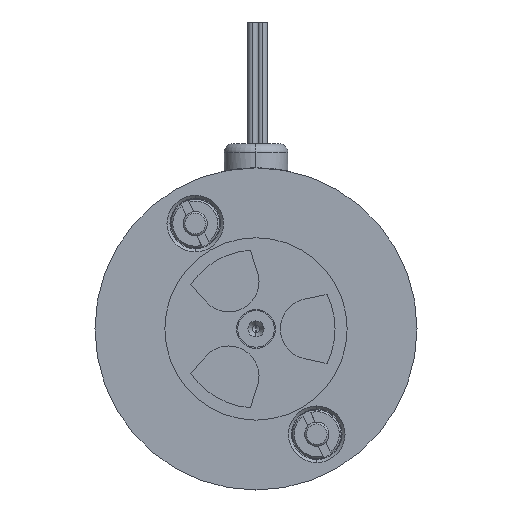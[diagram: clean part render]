
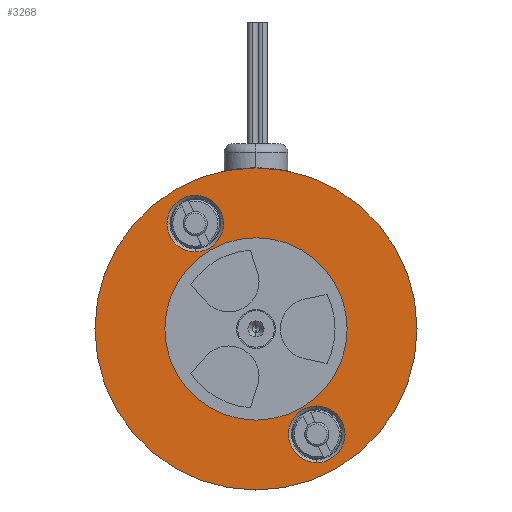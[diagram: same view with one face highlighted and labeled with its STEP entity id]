
A CAD part, left-side view. The second image highlights one B-rep face of the part: STEP entity #3268.
In plain terms, the highlighted planar face has unit normal (-1, 0, 0).
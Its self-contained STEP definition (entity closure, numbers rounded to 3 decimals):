
#226 = DIRECTION ( 'NONE',  ( 0., 0., -1. ) ) ;
#227 = DIRECTION ( 'NONE',  ( 1., 0., 0. ) ) ;
#228 = CARTESIAN_POINT ( 'NONE',  ( -112., 10., 17.321 ) ) ;
#229 = AXIS2_PLACEMENT_3D ( 'NONE', #228, #227, #226 ) ;
#230 = CIRCLE ( 'NONE', #229, 4.65 ) ;
#231 = DIRECTION ( 'NONE',  ( 0., 0., -1. ) ) ;
#232 = DIRECTION ( 'NONE',  ( 1., 0., 0. ) ) ;
#233 = CARTESIAN_POINT ( 'NONE',  ( -112., -10., -17.321 ) ) ;
#234 = AXIS2_PLACEMENT_3D ( 'NONE', #233, #232, #231 ) ;
#239 = CIRCLE ( 'NONE', #234, 4.65 ) ;
#270 = DIRECTION ( 'NONE',  ( 0., 0., 1. ) ) ;
#271 = DIRECTION ( 'NONE',  ( -1., 0., 0. ) ) ;
#272 = CARTESIAN_POINT ( 'NONE',  ( -112., 0., 0. ) ) ;
#273 = AXIS2_PLACEMENT_3D ( 'NONE', #272, #271, #270 ) ;
#274 = CIRCLE ( 'NONE', #273, 15. ) ;
#391 = FACE_OUTER_BOUND ( 'NONE', #3294, .T. ) ;
#392 = FACE_BOUND ( 'NONE', #3290, .T. ) ;
#393 = FACE_BOUND ( 'NONE', #3286, .T. ) ;
#394 = FACE_BOUND ( 'NONE', #3282, .T. ) ;
#395 = DIRECTION ( 'NONE',  ( 0., 0., 1. ) ) ;
#396 = DIRECTION ( 'NONE',  ( -1., 0., 0. ) ) ;
#397 = CARTESIAN_POINT ( 'NONE',  ( -112., 0., 0. ) ) ;
#398 = AXIS2_PLACEMENT_3D ( 'NONE', #397, #396, #395 ) ;
#399 = CIRCLE ( 'NONE', #398, 26.5 ) ;
#436 = DIRECTION ( 'NONE',  ( 0., 0., -1. ) ) ;
#437 = DIRECTION ( 'NONE',  ( 1., 0., 0. ) ) ;
#438 = CARTESIAN_POINT ( 'NONE',  ( -112., 26.5, 0. ) ) ;
#439 = AXIS2_PLACEMENT_3D ( 'NONE', #438, #437, #436 ) ;
#441 = PLANE ( 'NONE',  #439 ) ;
#1901 = CARTESIAN_POINT ( 'NONE',  ( -112., -10., -12.671 ) ) ;
#1908 = DIRECTION ( 'NONE',  ( 0., 0., -1. ) ) ;
#1909 = DIRECTION ( 'NONE',  ( 1., 0., 0. ) ) ;
#1910 = CARTESIAN_POINT ( 'NONE',  ( -112., -10., -17.321 ) ) ;
#1911 = AXIS2_PLACEMENT_3D ( 'NONE', #1910, #1909, #1908 ) ;
#1912 = CIRCLE ( 'NONE', #1911, 4.65 ) ;
#2494 = VERTEX_POINT ( 'NONE', #4129 ) ;
#2495 = VERTEX_POINT ( 'NONE', #4128 ) ;
#2497 = EDGE_CURVE ( 'NONE', #2495, #2494, #4125, .T. ) ;
#2677 = VERTEX_POINT ( 'NONE', #4661 ) ;
#2685 = EDGE_CURVE ( 'NONE', #2690, #2677, #1912, .T. ) ;
#2690 = VERTEX_POINT ( 'NONE', #1901 ) ;
#2762 = VERTEX_POINT ( 'NONE', #5363 ) ;
#2820 = EDGE_CURVE ( 'NONE', #2762, #2821, #5169, .T. ) ;
#2821 = VERTEX_POINT ( 'NONE', #5146 ) ;
#2849 = VERTEX_POINT ( 'NONE', #5409 ) ;
#2851 = EDGE_CURVE ( 'NONE', #2852, #2849, #5408, .T. ) ;
#2852 = VERTEX_POINT ( 'NONE', #5403 ) ;
#3069 = ORIENTED_EDGE ( 'NONE', *, *, #2851, .T. ) ;
#3070 = ORIENTED_EDGE ( 'NONE', *, *, #3267, .T. ) ;
#3267 = EDGE_CURVE ( 'NONE', #2849, #2852, #399, .T. ) ;
#3268 = ADVANCED_FACE ( 'NONE', ( #394, #393, #392, #391 ), #441, .F. ) ;
#3282 = EDGE_LOOP ( 'NONE', ( #3283, #3284 ) ) ;
#3283 = ORIENTED_EDGE ( 'NONE', *, *, #2685, .T. ) ;
#3284 = ORIENTED_EDGE ( 'NONE', *, *, #3285, .T. ) ;
#3285 = EDGE_CURVE ( 'NONE', #2677, #2690, #239, .T. ) ;
#3286 = EDGE_LOOP ( 'NONE', ( #3287, #3288 ) ) ;
#3287 = ORIENTED_EDGE ( 'NONE', *, *, #2497, .T. ) ;
#3288 = ORIENTED_EDGE ( 'NONE', *, *, #3289, .T. ) ;
#3289 = EDGE_CURVE ( 'NONE', #2494, #2495, #230, .T. ) ;
#3290 = EDGE_LOOP ( 'NONE', ( #3291, #3292 ) ) ;
#3291 = ORIENTED_EDGE ( 'NONE', *, *, #2820, .F. ) ;
#3292 = ORIENTED_EDGE ( 'NONE', *, *, #3293, .F. ) ;
#3293 = EDGE_CURVE ( 'NONE', #2821, #2762, #274, .T. ) ;
#3294 = EDGE_LOOP ( 'NONE', ( #3069, #3070 ) ) ;
#4121 = DIRECTION ( 'NONE',  ( 0., 0., -1. ) ) ;
#4122 = DIRECTION ( 'NONE',  ( 1., 0., 0. ) ) ;
#4123 = CARTESIAN_POINT ( 'NONE',  ( -112., 10., 17.321 ) ) ;
#4124 = AXIS2_PLACEMENT_3D ( 'NONE', #4123, #4122, #4121 ) ;
#4125 = CIRCLE ( 'NONE', #4124, 4.65 ) ;
#4128 = CARTESIAN_POINT ( 'NONE',  ( -112., 10., 21.971 ) ) ;
#4129 = CARTESIAN_POINT ( 'NONE',  ( -112., 10., 12.671 ) ) ;
#4661 = CARTESIAN_POINT ( 'NONE',  ( -112., -10., -21.971 ) ) ;
#5146 = CARTESIAN_POINT ( 'NONE',  ( -112., 0., -15. ) ) ;
#5147 = DIRECTION ( 'NONE',  ( 0., 0., 1. ) ) ;
#5166 = DIRECTION ( 'NONE',  ( -1., 0., 0. ) ) ;
#5167 = CARTESIAN_POINT ( 'NONE',  ( -112., 0., 0. ) ) ;
#5168 = AXIS2_PLACEMENT_3D ( 'NONE', #5167, #5166, #5147 ) ;
#5169 = CIRCLE ( 'NONE', #5168, 15. ) ;
#5363 = CARTESIAN_POINT ( 'NONE',  ( -112., 0., 15. ) ) ;
#5403 = CARTESIAN_POINT ( 'NONE',  ( -112., 0., 26.5 ) ) ;
#5404 = DIRECTION ( 'NONE',  ( 0., 0., 1. ) ) ;
#5405 = DIRECTION ( 'NONE',  ( -1., 0., 0. ) ) ;
#5406 = CARTESIAN_POINT ( 'NONE',  ( -112., 0., 0. ) ) ;
#5407 = AXIS2_PLACEMENT_3D ( 'NONE', #5406, #5405, #5404 ) ;
#5408 = CIRCLE ( 'NONE', #5407, 26.5 ) ;
#5409 = CARTESIAN_POINT ( 'NONE',  ( -112., 0., -26.5 ) ) ;
